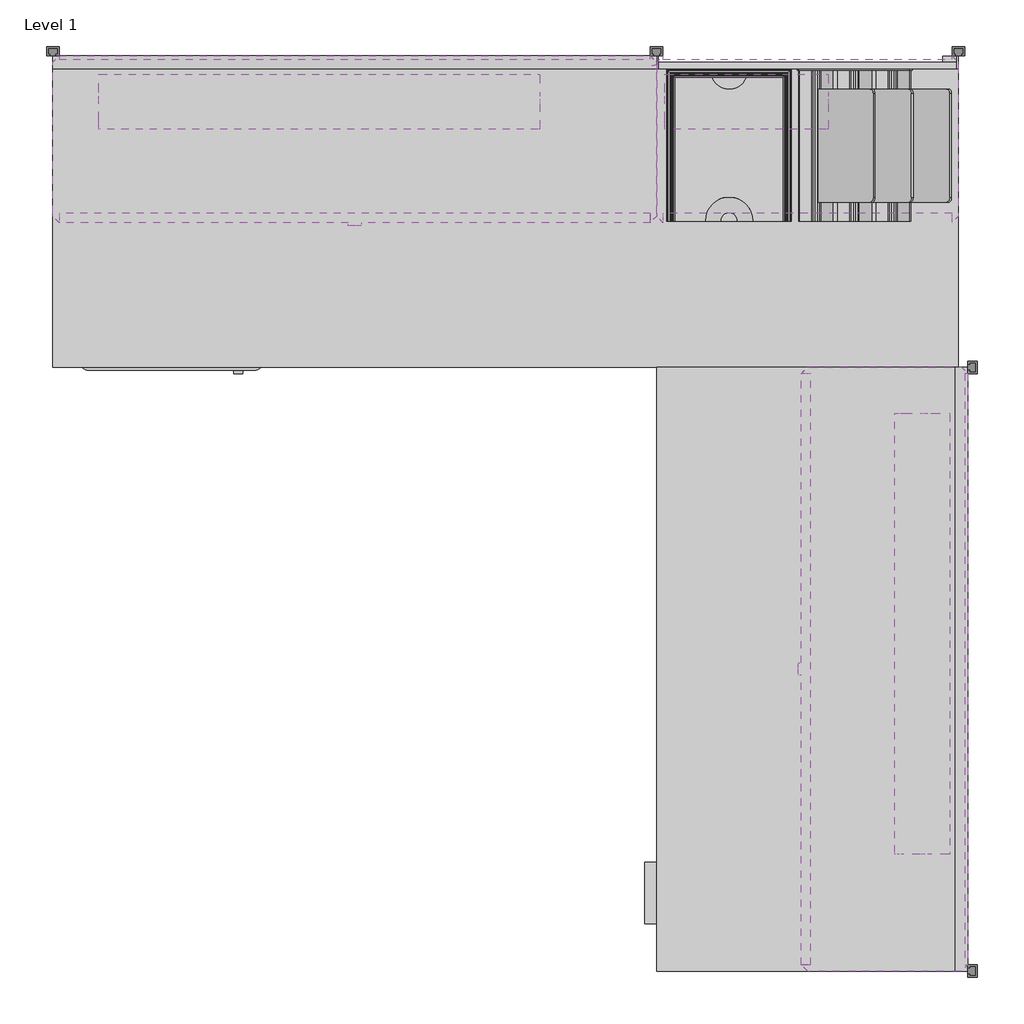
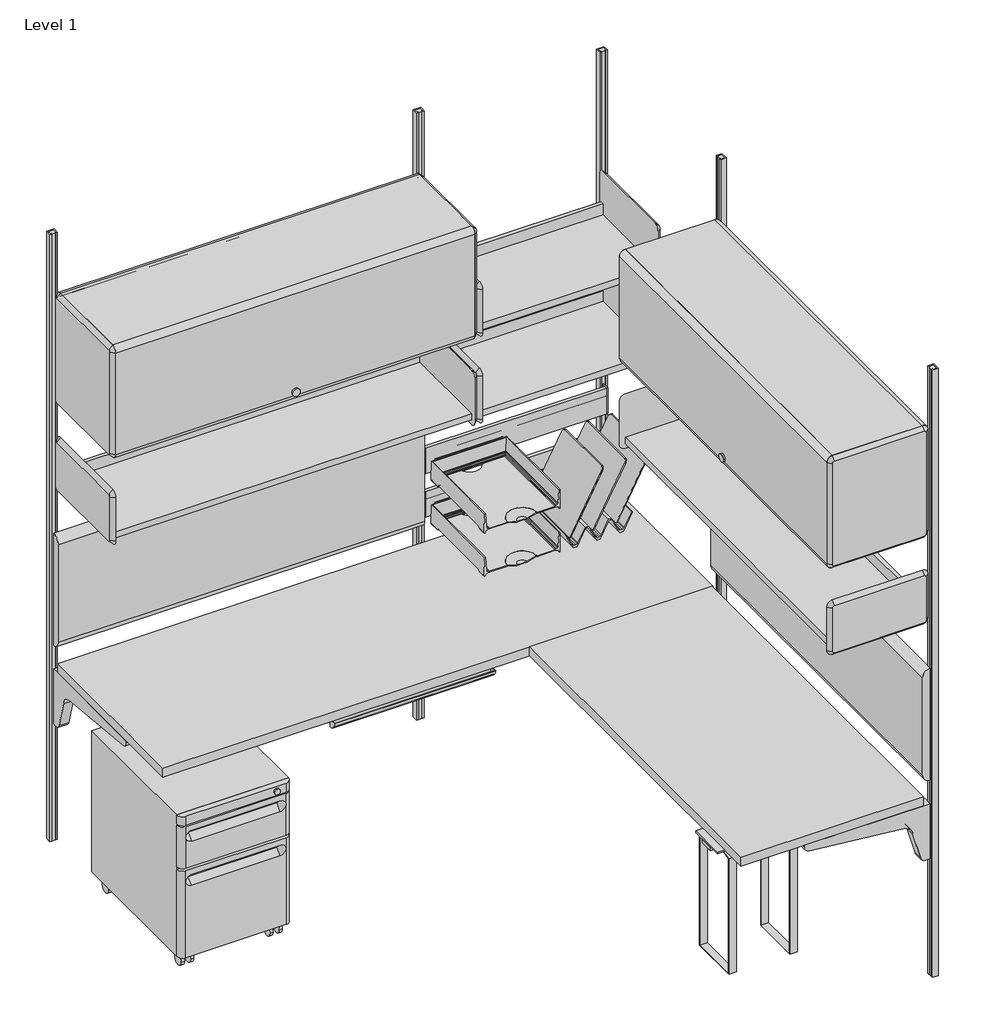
# One storey, incomplete: 23 furniture elements, 3 light fixtures.
"""IFC4 building model written with IfcOpenShell, lengths in millimetres."""

from ifc_helpers import new_model, si_unit, origin, place, context, project, spatial, transform, mapped, element, save
from components import furniture_84c54a78, furniture_d54c757f, furniture_75fc3fe0, furniture_a2665887, furniture_baef4f76, furniture_cb78dd66, furniture_d9179111, furniture_33cd207f, furniture_6a59721d, furniture_2520e590, furniture_083a197f, furniture_ae017f2a, furniture_9dcdb2d1, furniture_f3dbc57d, furniture_ea425779, vertical_a4187a12, light_fixture_3e001c73, light_fixture_05727ef9

model = new_model("IFC4")

# Units and contexts
model_context = context("Model", 3, world=origin())
ifc_project = project(units=[si_unit("LENGTHUNIT", "METRE", prefix="MILLI")], contexts=[model_context])

# Site, building, storey
site = spatial("IfcSite", under=ifc_project)
building = spatial("IfcBuilding", under=site)
storey = spatial("IfcBuildingStorey", under=building, Name="Level 1", Elevation=0.0)

# Furniture
placement = place(None, origin())
furniture_shape = furniture_84c54a78(model_context)
element("IfcFurniture", 1, ObjectType="HermanMiller_QuadrantFiling_G5111_MobilePedestal : 21-1/2\"H x 20\"D x 15\"W BF", at=placement, inside=storey, context=model_context, shape_type="MappedRepresentation", body=[
    mapped(furniture_shape, transform((239.44326, -390.382763, 0.0), x_axis=(1.0, 0.0, 0.0), y_axis=(0.0, 1.0, 0.0), z_axis=(0.0, 0.0, 1.0))),
])
furniture_2_shape = furniture_d54c757f(model_context)
element("IfcFurniture", 2, ObjectType="HermanMiller_ThrivePortfolio_Y5010_PencilDrawer : 2\"H x 16\"D x 21\"W", at=placement, inside=storey, context=model_context, shape_type="MappedRepresentation", body=[
    mapped(furniture_2_shape, transform((839.21854, -441.04052, 0.0), x_axis=(1.0, 0.0, 0.0), y_axis=(0.0, 1.0, 0.0), z_axis=(0.0, 0.0, 1.0))),
])
furniture_3_shape = furniture_75fc3fe0(model_context)
element("IfcFurniture", 3, ObjectType="HermanMiller_ThrivePortfolio_Y7218_DiagonalTray : 8 1/2\"H x 12\"D x 13\"W", at=placement, inside=storey, context=model_context, shape_type="MappedRepresentation", body=[
    mapped(furniture_3_shape, transform((1619.226897, -198.47052, 0.0), x_axis=(1.0, 0.0, 0.0), y_axis=(0.0, 1.0, 0.0), z_axis=(0.0, 0.0, 1.0))),
])
furniture_4_shape = furniture_a2665887(model_context)
element("IfcFurniture", 4, ObjectType="HermanMiller_ThrivePortfolio_Y7216_PaperTray : 3\"H x 12\"D x 10\"W", at=placement, inside=storey, context=model_context, shape_type="MappedRepresentation", body=[
    mapped(furniture_4_shape, transform((1365.4024, -198.47052, 0.0), x_axis=(1.0, 0.0, 0.0), y_axis=(0.0, 1.0, 0.0), z_axis=(0.0, 0.0, 1.0))),
])
furniture_5_shape = furniture_baef4f76(model_context)
element("IfcFurniture", 5, ObjectType="HermanMiller_ThrivePortfolio_Y7216_PaperTray : 3\"H x 12\"D x 10\"W", at=placement, inside=storey, context=model_context, shape_type="MappedRepresentation", body=[
    mapped(furniture_5_shape, transform((1365.4024, -198.47052, 0.0), x_axis=(1.0, 0.0, 0.0), y_axis=(0.0, 1.0, 0.0), z_axis=(0.0, 0.0, 1.0))),
])
furniture_6_shape = furniture_cb78dd66(model_context)
element("IfcFurniture", 6, ObjectType="HermanMiller_ActionOffice_A3410_B-StyleTackboard : 16\"H x 48\"W", at=placement, inside=storey, context=model_context, shape_type="MappedRepresentation", body=[
    mapped(furniture_6_shape, transform((609.6, -31.75, 0.0), x_axis=(1.0, 0.0, 0.0), y_axis=(0.0, 1.0, 0.0), z_axis=(0.0, 0.0, 1.0))),
])
element("IfcFurniture", 7, ObjectType="HermanMiller_ActionOffice_A3410_B-StyleTackboard : 16\"H x 48\"W", at=placement, inside=storey, context=model_context, shape_type="MappedRepresentation", body=[
    mapped(furniture_6_shape, transform((1835.15, -1257.3, 0.0), x_axis=(0.0, -1.0, 0.0), y_axis=(1.0, 0.0, 0.0), z_axis=(0.0, 0.0, 1.0))),
])
furniture_7_shape = furniture_d9179111(model_context)
element("IfcFurniture", 8, ObjectType="HermanMiller_ActionOffice_A3220_B-StyleStorageDisplay : Shelf 13\"D x 48\"W", at=placement, inside=storey, context=model_context, shape_type="MappedRepresentation", body=[
    mapped(furniture_7_shape, transform((733.5420045, -200.025, 0.0), x_axis=(1.0, 0.0, 0.0), y_axis=(0.0, 1.0, 0.0), z_axis=(0.0, 0.0, 1.0))),
])
element("IfcFurniture", 9, ObjectType="HermanMiller_ActionOffice_A3220_B-StyleStorageDisplay : Shelf 13\"D x 48\"W", at=placement, inside=storey, context=model_context, shape_type="MappedRepresentation", body=[
    mapped(furniture_7_shape, transform((1666.875, -1381.2420045, 0.0), x_axis=(0.0, -1.0, 0.0), y_axis=(1.0, 0.0, 0.0), z_axis=(0.0, 0.0, 1.0))),
])
furniture_8_shape = furniture_33cd207f(model_context)
element("IfcFurniture", 10, ObjectType="HermanMiller_ActionOffice_A3352_B-StyleFlipperDoorUnit : 15 1/2\"H x 13\"D x 48\"W", at=placement, inside=storey, context=model_context, shape_type="MappedRepresentation", body=[
    mapped(furniture_8_shape, transform((609.6, -200.025, 0.0), x_axis=(1.0, 0.0, 0.0), y_axis=(0.0, 1.0, 0.0), z_axis=(0.0, 0.0, 1.0))),
])
element("IfcFurniture", 11, ObjectType="HermanMiller_ActionOffice_A3352_B-StyleFlipperDoorUnit : 15 1/2\"H x 13\"D x 48\"W", at=placement, inside=storey, context=model_context, shape_type="MappedRepresentation", body=[
    mapped(furniture_8_shape, transform((1666.875, -1257.3, 0.0), x_axis=(0.0, -1.0, 0.0), y_axis=(1.0, 0.0, 0.0), z_axis=(0.0, 0.0, 1.0))),
])
furniture_9_shape = furniture_6a59721d(model_context)
element("IfcFurniture", 12, ObjectType="HermanMiller_ActionOffice_A3610_ToolBar : 4\"H x 24\"W", at=placement, inside=storey, context=model_context, shape_type="MappedRepresentation", body=[
    mapped(furniture_9_shape, transform((1524.0, -31.7499996, 0.0), x_axis=(1.0, 0.0, 0.0), y_axis=(0.0, 1.0, 0.0), z_axis=(0.0, 0.0, 1.0))),
])
furniture_10_shape = furniture_2520e590(model_context)
element("IfcFurniture", 13, ObjectType="HermanMiller_ActionOffice_A3610_ToolBar : 4\"H x 24\"W", at=placement, inside=storey, context=model_context, shape_type="MappedRepresentation", body=[
    mapped(furniture_10_shape, transform((1524.0, -31.7499996, 0.0), x_axis=(1.0, 0.0, 0.0), y_axis=(0.0, 1.0, 0.0), z_axis=(0.0, 0.0, 1.0))),
])
furniture_11_shape = furniture_083a197f(model_context)
element("IfcFurniture", 14, ObjectType="HermanMiller_ActionOffice_A2310_Sq-EdgeRectangularWorkSurface : 24\"D x 48\"W", at=placement, inside=storey, context=model_context, shape_type="MappedRepresentation", body=[
    mapped(furniture_11_shape, transform((1533.525, -1257.3, 0.0), x_axis=(0.0, -1.0, 0.0), y_axis=(1.0, 0.0, 0.0), z_axis=(0.0, 0.0, 1.0))),
])
furniture_12_shape = furniture_ae017f2a(model_context)
element("IfcFurniture", 15, ObjectType="HermanMiller_ActionOffice_A3220_B-StyleStorageDisplay : Shelf 13\"D x 24\"W", at=placement, inside=storey, context=model_context, shape_type="MappedRepresentation", body=[
    mapped(furniture_12_shape, transform((1647.9420045, -200.025, 0.0), x_axis=(1.0, 0.0, 0.0), y_axis=(0.0, 1.0, 0.0), z_axis=(0.0, 0.0, 1.0))),
])
furniture_13_shape = furniture_9dcdb2d1(model_context)
element("IfcFurniture", 16, ObjectType="HermanMiller_ActionOffice_A3220_B-StyleStorageDisplay : Shelf 13\"D x 24\"W", at=placement, inside=storey, context=model_context, shape_type="MappedRepresentation", body=[
    mapped(furniture_13_shape, transform((1647.9420045, -200.025, 0.0), x_axis=(1.0, 0.0, 0.0), y_axis=(0.0, 1.0, 0.0), z_axis=(0.0, 0.0, 1.0))),
])
furniture_14_shape = furniture_f3dbc57d(model_context)
element("IfcFurniture", 17, ObjectType="HermanMiller_ActionOffice_A2310_Sq-EdgeRectangularWorkSurface : 24\"D x 72\"W", at=placement, inside=storey, context=model_context, shape_type="MappedRepresentation", body=[
    mapped(furniture_14_shape, transform((914.4, -333.375, 0.0), x_axis=(1.0, 0.0, 0.0), y_axis=(0.0, 1.0, 0.0), z_axis=(0.0, 0.0, 1.0))),
])
furniture_15_shape = furniture_ea425779(model_context)
element("IfcFurniture", 18, ObjectType="HermanMiller_ActionOffice_AO213_WallStrip : 84\"H", at=placement, inside=storey, context=model_context, shape_type="MappedRepresentation", body=[
    mapped(furniture_15_shape, transform((1866.9, -647.7, 0.0), x_axis=(0.0, -1.0, 0.0), y_axis=(1.0, 0.0, 0.0), z_axis=(0.0, 0.0, 1.0))),
])
element("IfcFurniture", 19, ObjectType="HermanMiller_ActionOffice_AO213_WallStrip : 84\"H", at=placement, inside=storey, context=model_context, shape_type="MappedRepresentation", body=[
    mapped(furniture_15_shape, transform((1219.2, 0.0, 0.0), x_axis=(1.0, 0.0, 0.0), y_axis=(0.0, 1.0, 0.0), z_axis=(0.0, 0.0, 1.0))),
])
element("IfcFurniture", 20, ObjectType="HermanMiller_ActionOffice_AO213_WallStrip : 84\"H", at=placement, inside=storey, context=model_context, shape_type="MappedRepresentation", body=[
    mapped(furniture_15_shape, transform((1866.9, -1866.9, 0.0), x_axis=(0.0, -1.0, 0.0), y_axis=(1.0, 0.0, 0.0), z_axis=(0.0, 0.0, 1.0))),
])
element("IfcFurniture", 21, ObjectType="HermanMiller_ActionOffice_AO213_WallStrip : 84\"H", at=placement, inside=storey, context=model_context, shape_type="MappedRepresentation", body=[
    mapped(furniture_15_shape, transform((0.0, 0.0, 0.0), x_axis=(1.0, 0.0, 0.0), y_axis=(0.0, 1.0, 0.0), z_axis=(0.0, 0.0, 1.0))),
])
element("IfcFurniture", 22, ObjectType="HermanMiller_ActionOffice_AO213_WallStrip : 84\"H", at=placement, inside=storey, context=model_context, shape_type="MappedRepresentation", body=[
    mapped(furniture_15_shape, transform((1828.8, 0.0, 0.0), x_axis=(1.0, 0.0, 0.0), y_axis=(0.0, 1.0, 0.0), z_axis=(0.0, 0.0, 1.0))),
])
vertical_shape = vertical_a4187a12(model_context)
element("IfcFurniture", 23, ObjectType="HermanMiller_ThrivePortfolio_Y7813_CPUHolder : Vertical", at=placement, inside=storey, context=model_context, shape_type="MappedRepresentation", body=[
    mapped(vertical_shape, transform((1334.82842, -1709.3438, 0.0), x_axis=(0.0, -1.0000000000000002, 0.0), y_axis=(1.0000000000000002, 0.0, 0.0), z_axis=(0.0, 0.0, 1.0))),
])

# Light fixtures
light_fixture_shape = light_fixture_3e001c73(model_context)
element("IfcLightFixture", 24, ObjectType="HermanMiller_SupplementalProducts_G6136_UtilityTaskLight : AO Etho Canvas 42W", at=placement, inside=storey, context=model_context, shape_type="MappedRepresentation", body=[
    mapped(light_fixture_shape, transform((537.718, -111.125, 0.0), x_axis=(1.0, 0.0, 0.0), y_axis=(0.0, 1.0, 0.0), z_axis=(0.0, 0.0, 1.0))),
])
element("IfcLightFixture", 25, ObjectType="HermanMiller_SupplementalProducts_G6136_UtilityTaskLight : AO Etho Canvas 42W", at=placement, inside=storey, context=model_context, shape_type="MappedRepresentation", body=[
    mapped(light_fixture_shape, transform((1755.775, -1185.418, 0.0), x_axis=(0.0, -1.0, 0.0), y_axis=(1.0, 0.0, 0.0), z_axis=(0.0, 0.0, 1.0))),
])
light_fixture_2_shape = light_fixture_05727ef9(model_context)
element("IfcLightFixture", 26, ObjectType="HermanMiller_SupplementalProducts_G6136_UtilityTaskLight : AO Etho Canvas 24W", at=placement, inside=storey, context=model_context, shape_type="MappedRepresentation", body=[
    mapped(light_fixture_2_shape, transform((1400.429, -111.125, 0.0), x_axis=(1.0, 0.0, 0.0), y_axis=(0.0, 1.0, 0.0), z_axis=(0.0, 0.0, 1.0))),
])

save(model, "model.ifc")
